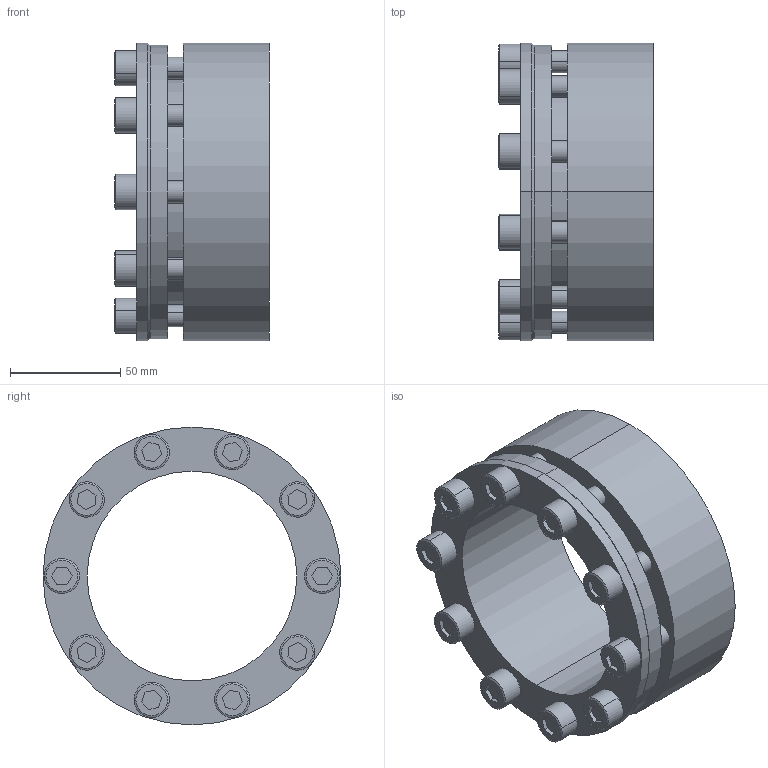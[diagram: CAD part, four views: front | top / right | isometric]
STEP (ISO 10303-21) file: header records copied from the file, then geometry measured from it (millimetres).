
FILE_DESCRIPTION (( 'STEP AP203' ), '1' );
FILE_NAME ('SD-95.step', '2009-09-29T16:34:02', ( 'USER' ), ( 'HOME' ), 'SwSTEP 2.0', 'SolidWorks 2007', '' );
FILE_SCHEMA (( 'CONFIG_CONTROL_DESIGN' ));
Length unit declared in the file: millimetre
Products named in the file (1): SD-95
Bounding box: 70 x 135 x 135 mm (x, y, z)
Volume: 402783.9 mm3; surface area: 98909.2 mm2
Topology: 11 solids, 11 shells, 216 faces, 492 edges, 320 vertices
Faces by surface type: plane 104, cylinder 90, cone 22
Entity records: 6245 total; most frequent: DIRECTION 1126, CARTESIAN_POINT 1029, ORIENTED_EDGE 984, EDGE_CURVE 492, AXIS2_PLACEMENT_3D 417, VERTEX_POINT 320, VECTOR 292, LINE 292
